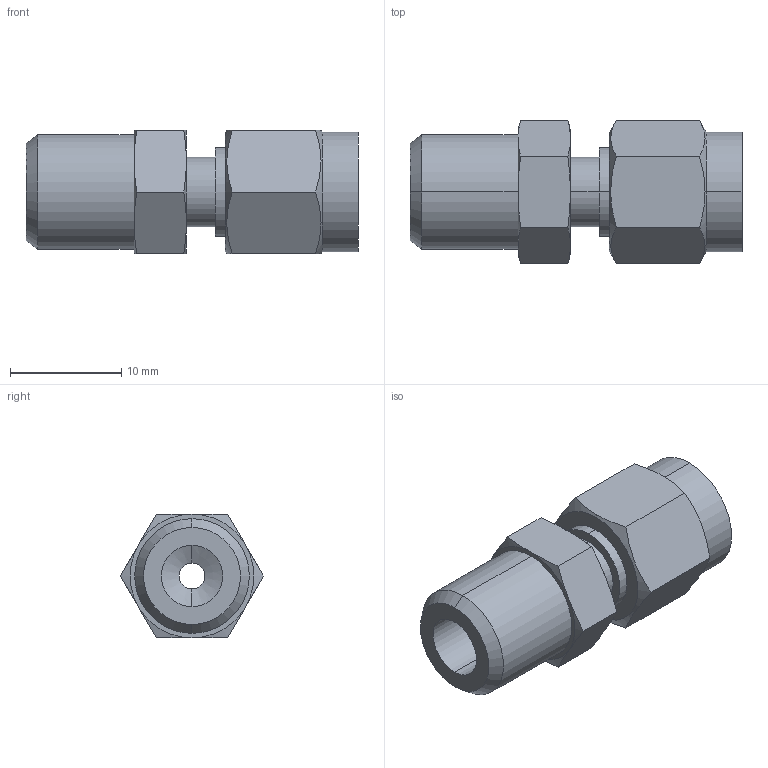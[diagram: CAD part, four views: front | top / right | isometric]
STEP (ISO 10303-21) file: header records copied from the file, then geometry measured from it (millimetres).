
FILE_DESCRIPTION (( 'STEP AP203' ), '1' );
FILE_NAME ('DCB02-02 SS.STEP', '2009-09-08T04:47:05', ( ' ' ), ( '' ), 'SwSTEP 2.0', 'SolidWorks 2008', '' );
FILE_SCHEMA (( 'CONFIG_CONTROL_DESIGN' ));
Length unit declared in the file: millimetre
Products named in the file (1): DCB02-02 SS
Bounding box: 29.8 x 12.83 x 11.11 mm (x, y, z)
Volume: 2295.2 mm3; surface area: 1656.6 mm2
Topology: 1 solids, 1 shells, 53 faces, 118 edges, 72 vertices
Faces by surface type: cone 20, plane 19, cylinder 14
Entity records: 1649 total; most frequent: CARTESIAN_POINT 436, ORIENTED_EDGE 236, DIRECTION 230, EDGE_CURVE 118, AXIS2_PLACEMENT_3D 98, VERTEX_POINT 72, EDGE_LOOP 60, ADVANCED_FACE 53
